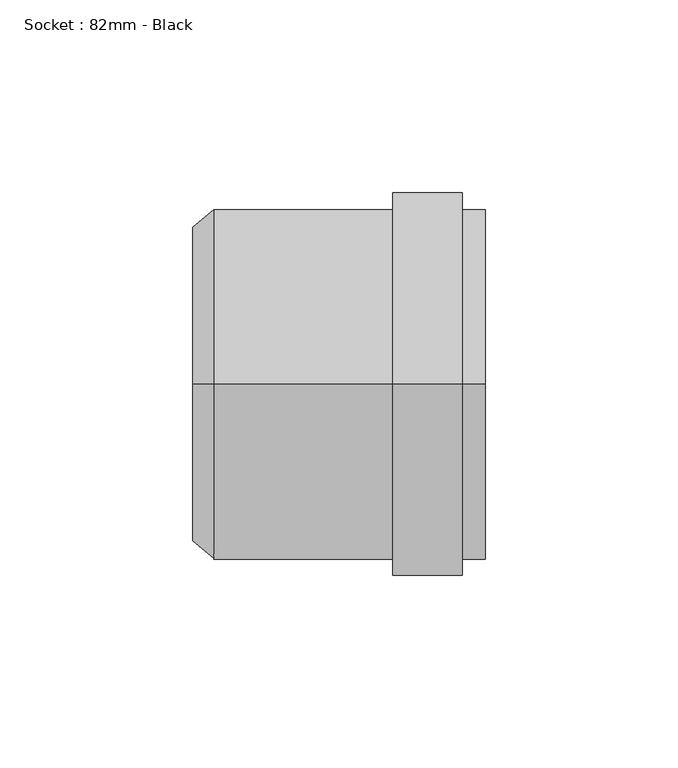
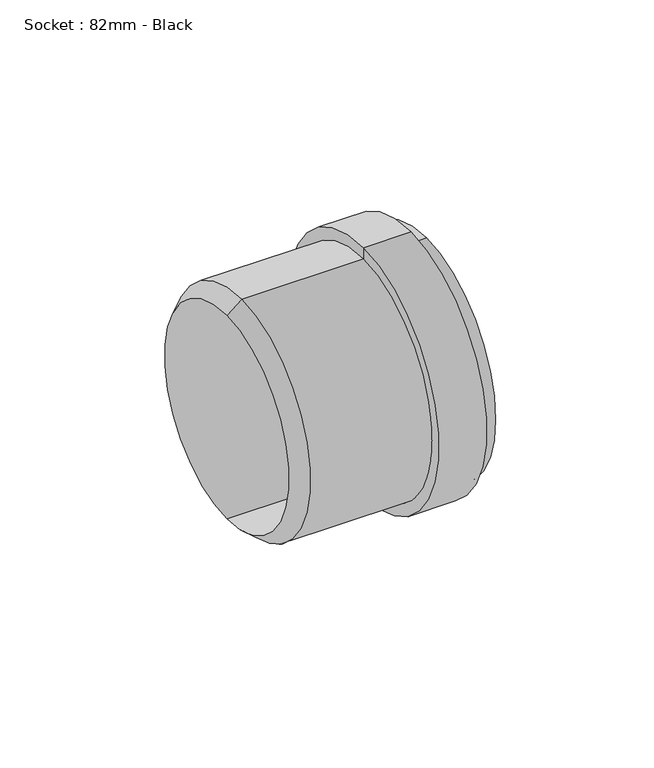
"""IFC4 building model written with IfcOpenShell, lengths in millimetres: pipe fitting geometry, Socket : 82mm - Black."""

from ifc_helpers import new_model, si_unit, frame, origin, place, context, project, spatial, polyline, circle_curve, source, transform, mapped, element, save
from ifc_brep_helpers import plane_surface, cylinder_surface, revolved_surface, advanced_brep


def socket_82mm_black_adff162a(model_context):
    return source(origin(), model_context, "Body", "AdvancedBrep", [
        advanced_brep(
        [(-14.8253818, 0.0, -41.0), (-14.8253818, 0.0, 41.0), (-9.3253818, 0.0, 45.5), (-9.3253818, 0.0, -45.5), (61.1746182, 0.0, -41.0), (61.1746182, 0.0, 41.0), (61.1746182, 0.0, -45.5), (61.1746182, 0.0, 45.5), (55.1746182, 0.0, -45.5), (55.1746182, 0.0, 45.5), (55.1746182, 0.0, -50.0), (55.1746182, 0.0, 50.0), (37.1746182, 0.0, -50.0), (37.1746182, 0.0, 50.0), (37.1746182, 0.0, -45.5), (37.1746182, 0.0, 45.5)],
        [
            (0, 1, circle_curve(frame((-14.8253818, 0.0, 0.0), z_axis=(1.0, 0.0, 0.0), x_axis=(0.0, 0.0, 1.0)), 41.0)),
            (1, 2),
            (2, 3, circle_curve(frame((-9.3253818, 0.0, 0.0), z_axis=(-1.0, 0.0, 0.0), x_axis=(0.0, 0.0, 1.0)), 45.5)),
            (3, 0),
            (1, 0, circle_curve(frame((-14.8253818, 0.0, 0.0), z_axis=(1.0, 0.0, 0.0), x_axis=(0.0, 0.0, 1.0)), 41.0)),
            (3, 2, circle_curve(frame((-9.3253818, 0.0, 0.0), z_axis=(-1.0, 0.0, 0.0), x_axis=(0.0, 0.0, 1.0)), 45.5)),
            (4, 5, circle_curve(frame((61.1746182, 0.0, 0.0), z_axis=(1.0, 0.0, 0.0), x_axis=(0.0, 0.0, 1.0)), 41.0)),
            (5, 1),
            (0, 4),
            (5, 4, circle_curve(frame((61.1746182, 0.0, 0.0), z_axis=(1.0, 0.0, 0.0), x_axis=(0.0, 0.0, 1.0)), 41.0)),
            (6, 7, circle_curve(frame((61.1746182, 0.0, 0.0), z_axis=(1.0, 0.0, 0.0), x_axis=(0.0, 0.0, 1.0)), 45.5)),
            (7, 5),
            (4, 6),
            (7, 6, circle_curve(frame((61.1746182, 0.0, 0.0), z_axis=(1.0, 0.0, 0.0), x_axis=(0.0, 0.0, 1.0)), 45.5)),
            (8, 9, circle_curve(frame((55.1746182, 0.0, 0.0), z_axis=(1.0, 0.0, 0.0), x_axis=(0.0, 0.0, 1.0)), 45.5)),
            (9, 7),
            (6, 8),
            (9, 8, circle_curve(frame((55.1746182, 0.0, 0.0), z_axis=(1.0, 0.0, 0.0), x_axis=(0.0, 0.0, 1.0)), 45.5)),
            (10, 11, circle_curve(frame((55.1746182, 0.0, 0.0), z_axis=(1.0, 0.0, 0.0), x_axis=(0.0, 0.0, 1.0)), 50.0)),
            (11, 9),
            (8, 10),
            (11, 10, circle_curve(frame((55.1746182, 0.0, 0.0), z_axis=(1.0, 0.0, 0.0), x_axis=(0.0, 0.0, 1.0)), 50.0)),
            (12, 13, circle_curve(frame((37.1746182, 0.0, 0.0), z_axis=(1.0, 0.0, 0.0), x_axis=(0.0, 0.0, 1.0)), 50.0)),
            (13, 11),
            (10, 12),
            (13, 12, circle_curve(frame((37.1746182, 0.0, 0.0), z_axis=(1.0, 0.0, 0.0), x_axis=(0.0, 0.0, 1.0)), 50.0)),
            (14, 15, circle_curve(frame((37.1746182, 0.0, 0.0), z_axis=(1.0, 0.0, 0.0), x_axis=(0.0, 0.0, 1.0)), 45.5)),
            (15, 13),
            (12, 14),
            (15, 14, circle_curve(frame((37.1746182, 0.0, 0.0), z_axis=(1.0, 0.0, 0.0), x_axis=(0.0, 0.0, 1.0)), 45.5)),
            (2, 15),
            (14, 3),
        ],
        [
            revolved_surface(polyline([(-9.3253818, 0.0, 45.5), (-14.8253818, 0.0, 41.0)]), (-1506.5299635, 0.0, 0.0), (-1.0, 0.0, 0.0)),
            revolved_surface(polyline([(-14.82538180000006, 0.0, 41.0), (61.17461819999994, 0.0, 41.0)]), (-1506.5299635, 0.0, 0.0), (-1.0, 0.0, 0.0)),
            plane_surface(frame((61.1746182, 0.0, 0.0), z_axis=(1.0, 0.0, 0.0), x_axis=(0.0, 0.0, 1.0))),
            cylinder_surface(frame((-1506.5299635, 0.0, 0.0), z_axis=(-1.0, 0.0, 0.0), x_axis=(0.0, 0.0, 1.0)), 45.5),
            plane_surface(frame((55.1746182, 0.0, 0.0), z_axis=(1.0, 0.0, 0.0), x_axis=(0.0, 0.0, 1.0))),
            cylinder_surface(frame((-1506.5299635, 0.0, 0.0), z_axis=(-1.0, 0.0, 0.0), x_axis=(0.0, 0.0, 1.0)), 50.0),
            plane_surface(frame((37.1746182, 0.0, 0.0), z_axis=(-1.0, 0.0, 0.0), x_axis=(0.0, 0.0, 1.0))),
        ],
        [
            (0, [[1, 2, 3, 4]]),
            (0, [[5, -4, 6, -2]]),
            (1, [[7, 8, -1, 9]]),
            (1, [[10, -9, -5, -8]]),
            (2, [[11, 12, -7, 13]]),
            (2, [[14, -13, -10, -12]]),
            (3, [[15, 16, -11, 17]]),
            (3, [[18, -17, -14, -16]]),
            (4, [[19, 20, -15, 21]]),
            (4, [[22, -21, -18, -20]]),
            (5, [[23, 24, -19, 25]]),
            (5, [[26, -25, -22, -24]]),
            (6, [[27, 28, -23, 29]]),
            (6, [[30, -29, -26, -28]]),
            (3, [[-3, 31, -27, 32]]),
            (3, [[-6, -32, -30, -31]]),
        ],
    ),
    ])


if __name__ == "__main__":
    model = new_model("IFC4")
    model_context = context("Model", 3, world=origin())
    ifc_project = project(units=[si_unit("LENGTHUNIT", "METRE", prefix="MILLI")], contexts=[model_context])
    site = spatial("IfcSite", under=ifc_project)
    building = spatial("IfcBuilding", under=site)
    placement = place(None, origin())
    socket_82mm_black_shape = socket_82mm_black_adff162a(model_context)
    element("IfcPipeFitting", 1, ObjectType="Socket : 82mm - Black", at=placement, inside=building, context=model_context, shape_type="MappedRepresentation", body=[
        mapped(socket_82mm_black_shape, transform((0.0, 0.0, 0.0), x_axis=(1.0, 0.0, 0.0), y_axis=(0.0, 1.0, 0.0), z_axis=(0.0, 0.0, 1.0))),
    ])
    save(model, "model.ifc")
